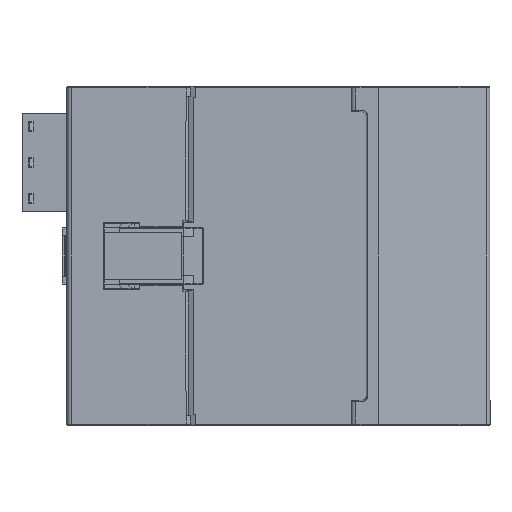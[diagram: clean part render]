
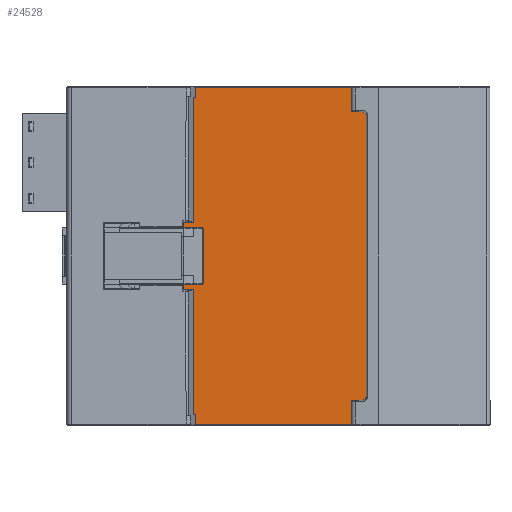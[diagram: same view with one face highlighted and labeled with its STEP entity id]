
A CAD part, front view. The second image highlights one B-rep face of the part: STEP entity #24528.
In plain terms, the highlighted planar face has unit normal (0, -1, 0).
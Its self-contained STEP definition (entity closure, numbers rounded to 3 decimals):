
#105=ELLIPSE('',#25920,1.001,1.);
#106=ELLIPSE('',#25921,1.001,1.);
#2579=FACE_OUTER_BOUND('',#3911,.T.);
#3911=EDGE_LOOP('',(#17285,#17286,#17287,#17288,#17289,#17290,#17291,#17292,
#17293,#17294,#17295,#17296,#17297,#17298,#17299,#17300,#17301,#17302,#17303,
#17304,#17305,#17306));
#5628=LINE('',#35635,#8418);
#5630=LINE('',#35639,#8420);
#5633=LINE('',#35645,#8423);
#5634=LINE('',#35647,#8424);
#5635=LINE('',#35649,#8425);
#5636=LINE('',#35651,#8426);
#5637=LINE('',#35653,#8427);
#5638=LINE('',#35655,#8428);
#5639=LINE('',#35657,#8429);
#5640=LINE('',#35659,#8430);
#5641=LINE('',#35661,#8431);
#5642=LINE('',#35665,#8432);
#5643=LINE('',#35669,#8433);
#5644=LINE('',#35671,#8434);
#5645=LINE('',#35673,#8435);
#5646=LINE('',#35675,#8436);
#5647=LINE('',#35677,#8437);
#5648=LINE('',#35679,#8438);
#5649=LINE('',#35681,#8439);
#5650=LINE('',#35682,#8440);
#8418=VECTOR('',#28581,10.);
#8420=VECTOR('',#28585,10.);
#8423=VECTOR('',#28590,10.);
#8424=VECTOR('',#28591,10.);
#8425=VECTOR('',#28592,10.);
#8426=VECTOR('',#28593,10.);
#8427=VECTOR('',#28594,10.);
#8428=VECTOR('',#28595,10.);
#8429=VECTOR('',#28596,10.);
#8430=VECTOR('',#28597,10.);
#8431=VECTOR('',#28598,10.);
#8432=VECTOR('',#28601,10.);
#8433=VECTOR('',#28604,10.);
#8434=VECTOR('',#28605,10.);
#8435=VECTOR('',#28606,10.);
#8436=VECTOR('',#28607,10.);
#8437=VECTOR('',#28608,10.);
#8438=VECTOR('',#28609,10.);
#8439=VECTOR('',#28610,10.);
#8440=VECTOR('',#28611,10.);
#11129=VERTEX_POINT('',#35632);
#11130=VERTEX_POINT('',#35634);
#11131=VERTEX_POINT('',#35638);
#11133=VERTEX_POINT('',#35644);
#11134=VERTEX_POINT('',#35646);
#11135=VERTEX_POINT('',#35648);
#11136=VERTEX_POINT('',#35650);
#11137=VERTEX_POINT('',#35652);
#11138=VERTEX_POINT('',#35654);
#11139=VERTEX_POINT('',#35656);
#11140=VERTEX_POINT('',#35658);
#11141=VERTEX_POINT('',#35660);
#11142=VERTEX_POINT('',#35662);
#11143=VERTEX_POINT('',#35664);
#11144=VERTEX_POINT('',#35666);
#11145=VERTEX_POINT('',#35668);
#11146=VERTEX_POINT('',#35670);
#11147=VERTEX_POINT('',#35672);
#11148=VERTEX_POINT('',#35674);
#11149=VERTEX_POINT('',#35676);
#11150=VERTEX_POINT('',#35678);
#11151=VERTEX_POINT('',#35680);
#13511=EDGE_CURVE('',#11130,#11129,#5628,.T.);
#13513=EDGE_CURVE('',#11130,#11131,#5630,.T.);
#13516=EDGE_CURVE('',#11133,#11129,#5633,.T.);
#13517=EDGE_CURVE('',#11133,#11134,#5634,.F.);
#13518=EDGE_CURVE('',#11135,#11134,#5635,.T.);
#13519=EDGE_CURVE('',#11135,#11136,#5636,.T.);
#13520=EDGE_CURVE('',#11136,#11137,#5637,.T.);
#13521=EDGE_CURVE('',#11138,#11137,#5638,.T.);
#13522=EDGE_CURVE('',#11139,#11138,#5639,.T.);
#13523=EDGE_CURVE('',#11140,#11139,#5640,.F.);
#13524=EDGE_CURVE('',#11141,#11140,#5641,.T.);
#13525=EDGE_CURVE('',#11142,#11141,#105,.T.);
#13526=EDGE_CURVE('',#11143,#11142,#5642,.T.);
#13527=EDGE_CURVE('',#11144,#11143,#106,.T.);
#13528=EDGE_CURVE('',#11144,#11145,#5643,.T.);
#13529=EDGE_CURVE('',#11145,#11146,#5644,.T.);
#13530=EDGE_CURVE('',#11147,#11146,#5645,.T.);
#13531=EDGE_CURVE('',#11148,#11147,#5646,.T.);
#13532=EDGE_CURVE('',#11149,#11148,#5647,.T.);
#13533=EDGE_CURVE('',#11150,#11149,#5648,.T.);
#13534=EDGE_CURVE('',#11151,#11150,#5649,.T.);
#13535=EDGE_CURVE('',#11131,#11151,#5650,.T.);
#17285=ORIENTED_EDGE('',*,*,#13511,.T.);
#17286=ORIENTED_EDGE('',*,*,#13516,.F.);
#17287=ORIENTED_EDGE('',*,*,#13517,.T.);
#17288=ORIENTED_EDGE('',*,*,#13518,.F.);
#17289=ORIENTED_EDGE('',*,*,#13519,.T.);
#17290=ORIENTED_EDGE('',*,*,#13520,.T.);
#17291=ORIENTED_EDGE('',*,*,#13521,.F.);
#17292=ORIENTED_EDGE('',*,*,#13522,.F.);
#17293=ORIENTED_EDGE('',*,*,#13523,.F.);
#17294=ORIENTED_EDGE('',*,*,#13524,.F.);
#17295=ORIENTED_EDGE('',*,*,#13525,.F.);
#17296=ORIENTED_EDGE('',*,*,#13526,.F.);
#17297=ORIENTED_EDGE('',*,*,#13527,.F.);
#17298=ORIENTED_EDGE('',*,*,#13528,.T.);
#17299=ORIENTED_EDGE('',*,*,#13529,.T.);
#17300=ORIENTED_EDGE('',*,*,#13530,.F.);
#17301=ORIENTED_EDGE('',*,*,#13531,.F.);
#17302=ORIENTED_EDGE('',*,*,#13532,.F.);
#17303=ORIENTED_EDGE('',*,*,#13533,.F.);
#17304=ORIENTED_EDGE('',*,*,#13534,.F.);
#17305=ORIENTED_EDGE('',*,*,#13535,.F.);
#17306=ORIENTED_EDGE('',*,*,#13513,.F.);
#23574=PLANE('',#25919);
#24528=ADVANCED_FACE('',(#2579),#23574,.T.);
#25919=AXIS2_PLACEMENT_3D('',#35643,#28588,#28589);
#25920=AXIS2_PLACEMENT_3D('',#35663,#28599,#28600);
#25921=AXIS2_PLACEMENT_3D('',#35667,#28602,#28603);
#28581=DIRECTION('',(0.,0.,-1.));
#28585=DIRECTION('',(1.,0.,0.));
#28588=DIRECTION('center_axis',(0.,-1.,0.));
#28589=DIRECTION('ref_axis',(1.,0.,0.));
#28590=DIRECTION('',(-1.,0.,0.));
#28591=DIRECTION('',(0.,0.,-1.));
#28592=DIRECTION('',(-1.,0.,0.));
#28593=DIRECTION('',(0.,0.,-1.));
#28594=DIRECTION('',(1.,0.,0.));
#28595=DIRECTION('',(0.,0.,1.));
#28596=DIRECTION('',(-1.,0.,0.));
#28597=DIRECTION('',(-0.017,0.,1.));
#28598=DIRECTION('',(-1.,0.,0.));
#28599=DIRECTION('center_axis',(0.,1.,0.));
#28600=DIRECTION('ref_axis',(0.707,0.,-0.707));
#28601=DIRECTION('',(0.,0.,-1.));
#28602=DIRECTION('center_axis',(0.,1.,0.));
#28603=DIRECTION('ref_axis',(0.707,0.,0.707));
#28604=DIRECTION('',(-1.,0.,0.));
#28605=DIRECTION('',(0.017,0.,1.));
#28606=DIRECTION('',(1.,0.,0.));
#28607=DIRECTION('',(0.,0.,1.));
#28608=DIRECTION('',(1.,0.,0.));
#28609=DIRECTION('',(0.,0.,1.));
#28610=DIRECTION('',(1.,0.,0.));
#28611=DIRECTION('',(0.,0.,-1.));
#35632=CARTESIAN_POINT('',(-20.188,-1.,-7.312));
#35634=CARTESIAN_POINT('',(-20.188,-1.,7.312));
#35635=CARTESIAN_POINT('',(-20.188,-1.,2.975));
#35638=CARTESIAN_POINT('',(-20.,-1.,7.312));
#35639=CARTESIAN_POINT('',(-26.76,-1.,7.312));
#35643=CARTESIAN_POINT('Origin',(-27.919,-1.,0.));
#35644=CARTESIAN_POINT('',(-20.,-1.,-7.312));
#35645=CARTESIAN_POINT('',(-26.76,-1.,-7.312));
#35646=CARTESIAN_POINT('',(-20.,-1.,-7.2));
#35647=CARTESIAN_POINT('',(-20.,-1.,-6.45));
#35648=CARTESIAN_POINT('',(-18.,-1.,-7.2));
#35649=CARTESIAN_POINT('',(-22.371,-1.,-7.2));
#35650=CARTESIAN_POINT('',(-18.,-1.,-33.6));
#35651=CARTESIAN_POINT('',(-18.,-1.,0.025));
#35652=CARTESIAN_POINT('',(-17.589,-1.,-33.6));
#35653=CARTESIAN_POINT('',(-26.588,-1.,-33.6));
#35654=CARTESIAN_POINT('',(-17.589,-1.,-35.7));
#35655=CARTESIAN_POINT('',(-17.589,-1.,-35.3));
#35656=CARTESIAN_POINT('',(17.664,-1.,-35.7));
#35657=CARTESIAN_POINT('',(8.501,-1.,-35.7));
#35658=CARTESIAN_POINT('',(17.575,-1.,-30.6));
#35659=CARTESIAN_POINT('',(17.196,-1.,-8.906));
#35660=CARTESIAN_POINT('',(17.676,-1.,-30.6));
#35661=CARTESIAN_POINT('',(-5.574,-1.,-30.6));
#35662=CARTESIAN_POINT('',(18.675,-1.,-29.601));
#35663=CARTESIAN_POINT('Origin',(17.674,-1.,-29.599));
#35664=CARTESIAN_POINT('',(18.675,-1.,29.601));
#35665=CARTESIAN_POINT('',(18.675,-1.,0.));
#35666=CARTESIAN_POINT('',(17.676,-1.,30.6));
#35667=CARTESIAN_POINT('Origin',(17.674,-1.,29.599));
#35668=CARTESIAN_POINT('',(17.575,-1.,30.6));
#35669=CARTESIAN_POINT('',(-5.574,-1.,30.6));
#35670=CARTESIAN_POINT('',(17.664,-1.,35.7));
#35671=CARTESIAN_POINT('',(17.352,-1.,17.804));
#35672=CARTESIAN_POINT('',(-17.589,-1.,35.7));
#35673=CARTESIAN_POINT('',(8.501,-1.,35.7));
#35674=CARTESIAN_POINT('',(-17.589,-1.,33.6));
#35675=CARTESIAN_POINT('',(-17.589,-1.,35.3));
#35676=CARTESIAN_POINT('',(-18.,-1.,33.6));
#35677=CARTESIAN_POINT('',(-26.588,-1.,33.6));
#35678=CARTESIAN_POINT('',(-18.,-1.,7.2));
#35679=CARTESIAN_POINT('',(-18.,-1.,-8.85));
#35680=CARTESIAN_POINT('',(-20.,-1.,7.2));
#35681=CARTESIAN_POINT('',(-22.371,-1.,7.2));
#35682=CARTESIAN_POINT('',(-20.,-1.,6.45));
